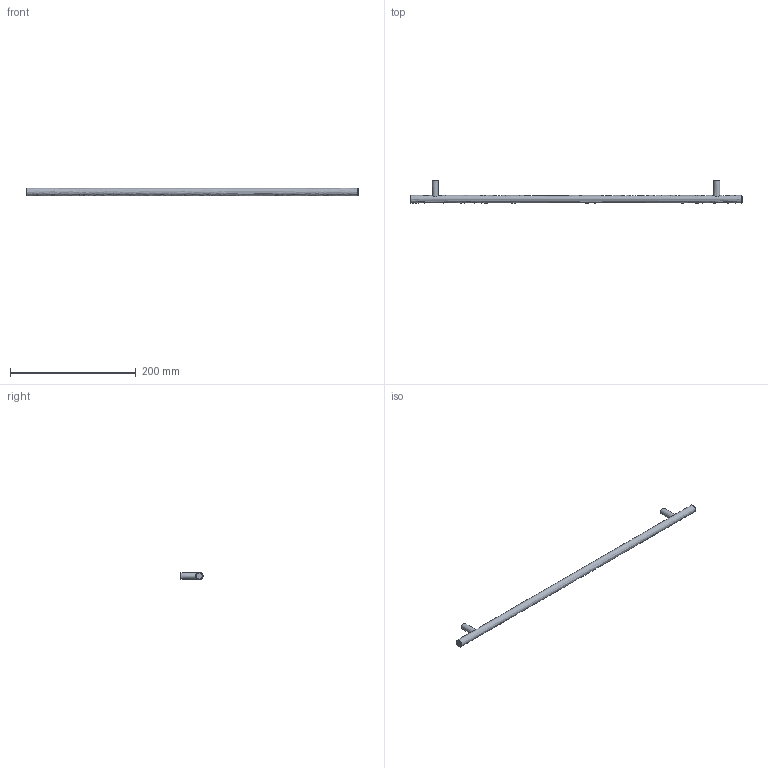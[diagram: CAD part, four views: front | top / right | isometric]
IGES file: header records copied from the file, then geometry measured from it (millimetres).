
Start section: Data from Parasolid IGES Translator 15.0.47, Copyright(c) 2006 Siemens P LM Software. All Rights Reserved.
Global section: file name: 9070756.igs; native system:  By UGS Corp.; preprocessor: XPlus GENERIC/IGES 3.0; author: Noname; organization: Noname; date: 20140123.103924; units: millimetre
Bounding box: 528 x 35 x 12 mm (x, y, z)
Surface area: 21802.9 mm2 (no closed solid volume)
Topology: 0 solids, 0 shells, 13 faces, 42 edges, 34 vertices
Faces by surface type: revolution 7, extrusion 6
